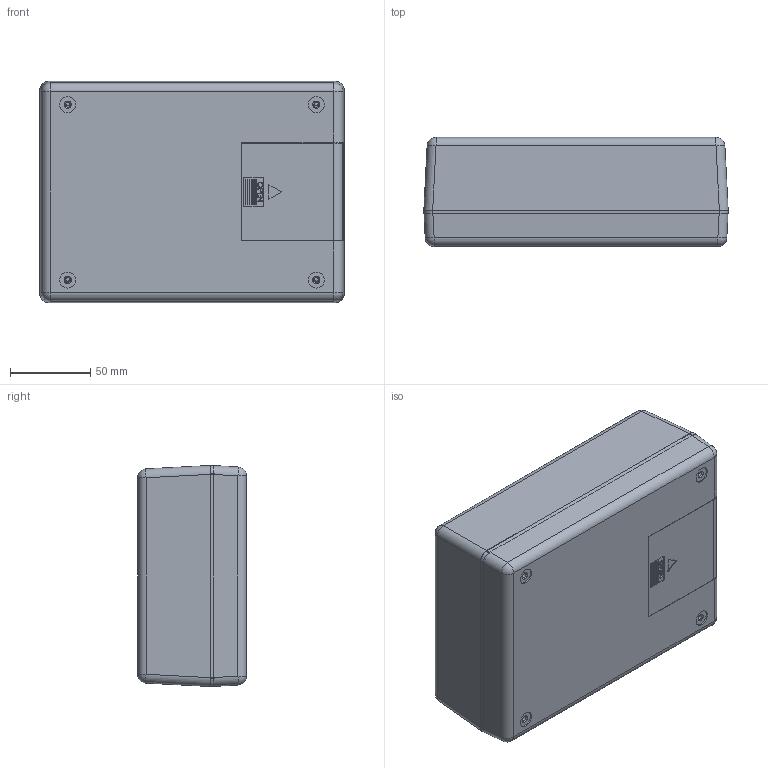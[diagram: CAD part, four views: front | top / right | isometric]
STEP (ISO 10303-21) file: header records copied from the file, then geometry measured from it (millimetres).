
FILE_DESCRIPTION (( 'STEP AP214' ), '1' );
FILE_NAME ('UCCL-127.STEP', '2020-05-22T17:45:38', ( 'Rudy' ), ( '' ), 'SwSTEP 2.0', 'SolidWorks 2014', '' );
FILE_SCHEMA (( 'AUTOMOTIVE_DESIGN' ));
Length unit declared in the file: inch
Products named in the file (4): door-4AA; UCCL-Deep-top; UCCL-4-AA-bot; UCCL-127
Assembly tree (3 placements, depth 2):
  UCCL-127
    UCCL-4-AA-bot
    UCCL-Deep-top
    door-4AA
Bounding box: 189.36 x 67.69 x 137.54 mm (x, y, z)
Volume: 285221.4 mm3; surface area: 219483.5 mm2
Topology: 3 solids, 3 shells, 1212 faces, 3183 edges, 2017 vertices
Faces by surface type: plane 606, cylinder 385, torus 101, cone 84, bspline 28, sphere 8
Entity records: 41126 total; most frequent: CARTESIAN_POINT 8840, ORIENTED_EDGE 6334, DIRECTION 6251, EDGE_CURVE 3167, AXIS2_PLACEMENT_3D 2108, LINE 2035, VECTOR 2035, VERTEX_POINT 2017
